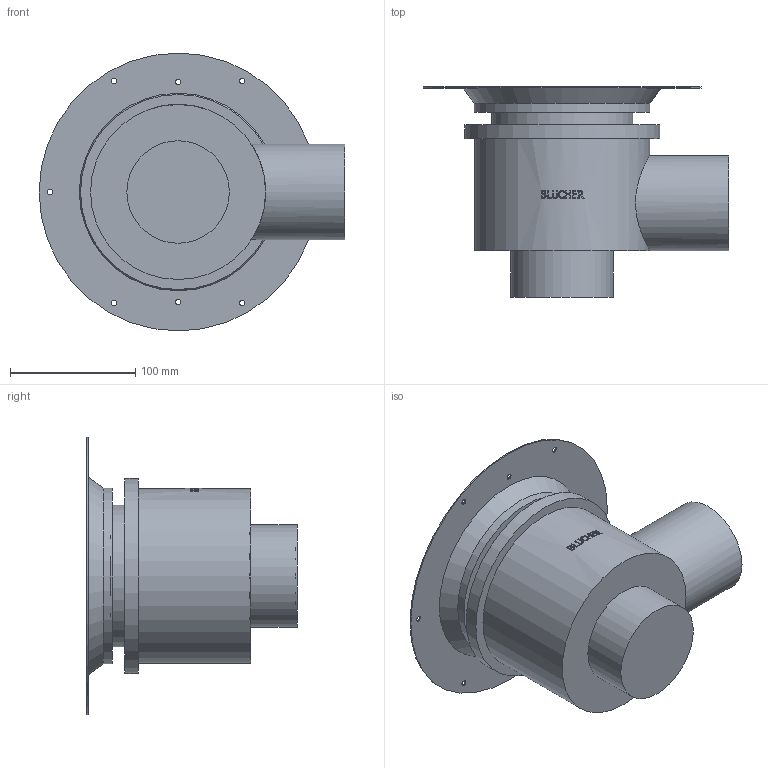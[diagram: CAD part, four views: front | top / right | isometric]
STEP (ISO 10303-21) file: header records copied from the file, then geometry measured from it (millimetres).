
FILE_DESCRIPTION((''),'2;1');
FILE_NAME('C:\Drawings\3D_CAD_Models\Blucher\Showers\BSR_Shower Drains with Round Top_Complete_091110\WebsiteFiles\3D\STEP\BSR-703.stp','2009-11-20T13:43:45',('hofmansp'),(''),'Autodesk Inventor 2010','Autodesk Inventor 2010','');
FILE_SCHEMA(('AUTOMOTIVE_DESIGN { 1 0 10303 214 1 1 1 1 }'));
Length unit declared in the file: inch
Products named in the file (1): BSR-703
Bounding box: 244.47 x 168.36 x 222.25 mm (x, y, z)
Volume: 196776.4 mm3; surface area: 316471.4 mm2
Topology: 1 solids, 1 shells, 213 faces, 633 edges, 443 vertices
Faces by surface type: bspline 113, plane 74, cylinder 24, cone 2
Full cylindrical faces by diameter (mm): 74.2 x1, 76.2 x1, 80 x1, 82 x1, 111 x1, 113 x2, 138 x1, 138.6 x1, 140 x1, 140.6 x1, 155.575 x1, 156 x1, 222.25 x1
Entity records: 20335 total; most frequent: CARTESIAN_POINT 15367, ORIENTED_EDGE 960, DIRECTION 733, EDGE_CURVE 480, EDGE_LOOP 448, VERTEX_POINT 372, AXIS2_PLACEMENT_3D 298, FACE_BOUND 235
